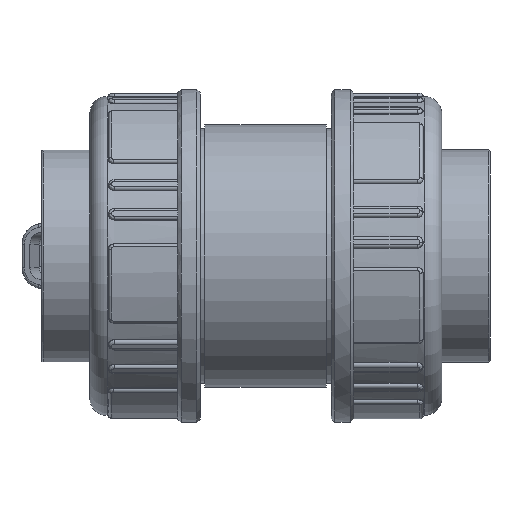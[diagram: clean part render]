
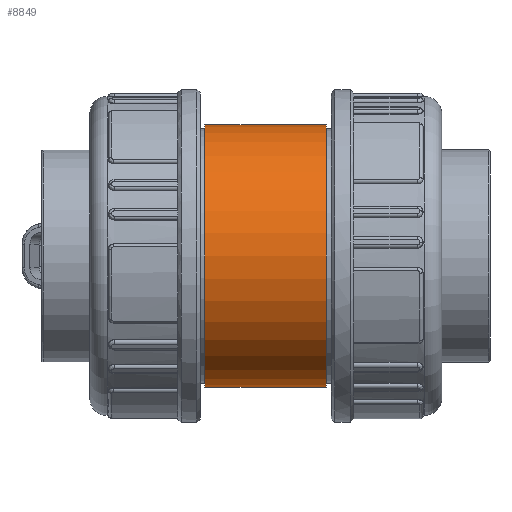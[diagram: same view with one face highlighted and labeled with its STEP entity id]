
A CAD part, left-side view. The second image highlights one B-rep face of the part: STEP entity #8849.
In plain terms, the highlighted cylindrical face has radius 38 mm (diameter 76 mm), a full revolution.
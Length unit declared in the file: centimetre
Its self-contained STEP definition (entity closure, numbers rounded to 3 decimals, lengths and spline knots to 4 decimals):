
#1475=B_SPLINE_CURVE_WITH_KNOTS('',3,(#65791,#65792,#65793,#65794,#65795,
#65796,#65797,#65798,#65799,#65800,#65801,#65802,#65803,#65804,#65805,#65806,
#65807,#65808,#65809,#65810,#65811,#65812,#65813,#65814,#65815,#65816,#65817,
#65818,#65819,#65820,#65821,#65822,#65823,#65824,#65825,#65826,#65827,#65828,
#65829,#65830,#65831,#65832,#65833,#65834,#65835,#65836,#65837,#65838,#65839,
#65840,#65841,#65842,#65843,#65844,#65845,#65846,#65847,#65848),
 .UNSPECIFIED.,.T.,.F.,(4,2,2,2,2,2,2,2,2,2,2,2,2,2,2,2,2,2,2,2,2,2,2,2,
2,2,2,2,4),(0.,0.3057,0.6115,1.2229,1.5283,
1.8336,2.1389,2.4443,2.7496,3.055,
3.3603,3.6657,4.2771,4.5829,4.8886,
5.1943,5.5,6.1115,6.4168,6.7222,
7.0275,7.3329,7.6382,7.9436,8.2489,
8.5542,9.1657,9.4714,9.7772),
 .UNSPECIFIED.);
#1631=CYLINDRICAL_SURFACE('',#9661,3.8);
#1692=FACE_BOUND('',#2773,.T.);
#1693=FACE_BOUND('',#2774,.T.);
#2212=FACE_OUTER_BOUND('',#2772,.T.);
#2772=EDGE_LOOP('',(#7632));
#2773=EDGE_LOOP('',(#7633));
#2774=EDGE_LOOP('',(#7634));
#3215=CIRCLE('',#9662,3.8);
#3216=CIRCLE('',#9663,3.8);
#3962=VERTEX_POINT('',#65790);
#3969=VERTEX_POINT('',#65909);
#3970=VERTEX_POINT('',#65911);
#5179=EDGE_CURVE('',#3962,#3962,#1475,.T.);
#5192=EDGE_CURVE('',#3969,#3969,#3215,.T.);
#5193=EDGE_CURVE('',#3970,#3970,#3216,.T.);
#7632=ORIENTED_EDGE('',*,*,#5192,.F.);
#7633=ORIENTED_EDGE('',*,*,#5179,.T.);
#7634=ORIENTED_EDGE('',*,*,#5193,.T.);
#8849=ADVANCED_FACE('',(#2212,#1692,#1693),#1631,.T.);
#9661=AXIS2_PLACEMENT_3D('',#65908,#11775,#11776);
#9662=AXIS2_PLACEMENT_3D('',#65910,#11777,#11778);
#9663=AXIS2_PLACEMENT_3D('',#65912,#11779,#11780);
#11775=DIRECTION('center_axis',(0.,-1.,0.));
#11776=DIRECTION('ref_axis',(-1.,0.,0.));
#11777=DIRECTION('center_axis',(0.,-1.,0.));
#11778=DIRECTION('ref_axis',(1.,0.,0.));
#11779=DIRECTION('center_axis',(0.,-1.,0.));
#11780=DIRECTION('ref_axis',(1.,0.,0.));
#65790=CARTESIAN_POINT('',(3.4467,0.,-1.6));
#65791=CARTESIAN_POINT('Ctrl Pts',(3.4467,0.,-1.6));
#65792=CARTESIAN_POINT('Ctrl Pts',(3.4467,-0.1019,
-1.6));
#65793=CARTESIAN_POINT('Ctrl Pts',(3.4514,-0.2068,
-1.5901));
#65794=CARTESIAN_POINT('Ctrl Pts',(3.47,-0.4146,
-1.549));
#65795=CARTESIAN_POINT('Ctrl Pts',(3.484,-0.5175,
-1.5177));
#65796=CARTESIAN_POINT('Ctrl Pts',(3.5359,-0.8124,-1.3947));
#65797=CARTESIAN_POINT('Ctrl Pts',(3.5838,-0.9906,
-1.2721));
#65798=CARTESIAN_POINT('Ctrl Pts',(3.6496,-1.2017,-1.0611));
#65799=CARTESIAN_POINT('Ctrl Pts',(3.6721,-1.2678,-0.9816));
#65800=CARTESIAN_POINT('Ctrl Pts',(3.7141,-1.3849,-0.8082));
#65801=CARTESIAN_POINT('Ctrl Pts',(3.7336,-1.4357,-0.7142));
#65802=CARTESIAN_POINT('Ctrl Pts',(3.7659,-1.5178,-0.5174));
#65803=CARTESIAN_POINT('Ctrl Pts',(3.7788,-1.549,-0.4145));
#65804=CARTESIAN_POINT('Ctrl Pts',(3.7958,-1.5901,-0.2066));
#65805=CARTESIAN_POINT('Ctrl Pts',(3.8,-1.6,-0.1018));
#65806=CARTESIAN_POINT('Ctrl Pts',(3.8,-1.6,0.1018));
#65807=CARTESIAN_POINT('Ctrl Pts',(3.7958,-1.5901,0.2066));
#65808=CARTESIAN_POINT('Ctrl Pts',(3.7788,-1.549,0.4145));
#65809=CARTESIAN_POINT('Ctrl Pts',(3.7659,-1.5178,0.5174));
#65810=CARTESIAN_POINT('Ctrl Pts',(3.7336,-1.4357,0.7142));
#65811=CARTESIAN_POINT('Ctrl Pts',(3.7141,-1.3849,0.8082));
#65812=CARTESIAN_POINT('Ctrl Pts',(3.6721,-1.2678,0.9816));
#65813=CARTESIAN_POINT('Ctrl Pts',(3.6496,-1.2017,1.0611));
#65814=CARTESIAN_POINT('Ctrl Pts',(3.5838,-0.9906,
1.2721));
#65815=CARTESIAN_POINT('Ctrl Pts',(3.5359,-0.8124,1.3947));
#65816=CARTESIAN_POINT('Ctrl Pts',(3.484,-0.5175,
1.5177));
#65817=CARTESIAN_POINT('Ctrl Pts',(3.47,-0.4146,
1.549));
#65818=CARTESIAN_POINT('Ctrl Pts',(3.4514,-0.2068,
1.5901));
#65819=CARTESIAN_POINT('Ctrl Pts',(3.4467,-0.1019,
1.6));
#65820=CARTESIAN_POINT('Ctrl Pts',(3.4467,0.1019,1.6));
#65821=CARTESIAN_POINT('Ctrl Pts',(3.4514,0.2068,1.5901));
#65822=CARTESIAN_POINT('Ctrl Pts',(3.47,0.4146,1.549));
#65823=CARTESIAN_POINT('Ctrl Pts',(3.484,0.5175,1.5177));
#65824=CARTESIAN_POINT('Ctrl Pts',(3.5359,0.8124,1.3947));
#65825=CARTESIAN_POINT('Ctrl Pts',(3.5838,0.9906,1.2721));
#65826=CARTESIAN_POINT('Ctrl Pts',(3.6496,1.2017,1.0611));
#65827=CARTESIAN_POINT('Ctrl Pts',(3.6721,1.2678,0.9816));
#65828=CARTESIAN_POINT('Ctrl Pts',(3.7141,1.3849,0.8082));
#65829=CARTESIAN_POINT('Ctrl Pts',(3.7336,1.4357,0.7142));
#65830=CARTESIAN_POINT('Ctrl Pts',(3.7659,1.5178,0.5174));
#65831=CARTESIAN_POINT('Ctrl Pts',(3.7788,1.549,0.4145));
#65832=CARTESIAN_POINT('Ctrl Pts',(3.7958,1.5901,0.2066));
#65833=CARTESIAN_POINT('Ctrl Pts',(3.8,1.6,0.1018));
#65834=CARTESIAN_POINT('Ctrl Pts',(3.8,1.6,-0.1018));
#65835=CARTESIAN_POINT('Ctrl Pts',(3.7958,1.5901,-0.2066));
#65836=CARTESIAN_POINT('Ctrl Pts',(3.7788,1.549,-0.4145));
#65837=CARTESIAN_POINT('Ctrl Pts',(3.7659,1.5178,-0.5174));
#65838=CARTESIAN_POINT('Ctrl Pts',(3.7336,1.4357,-0.7142));
#65839=CARTESIAN_POINT('Ctrl Pts',(3.7141,1.3849,-0.8082));
#65840=CARTESIAN_POINT('Ctrl Pts',(3.6721,1.2678,-0.9816));
#65841=CARTESIAN_POINT('Ctrl Pts',(3.6496,1.2017,-1.0611));
#65842=CARTESIAN_POINT('Ctrl Pts',(3.5838,0.9906,-1.2721));
#65843=CARTESIAN_POINT('Ctrl Pts',(3.5359,0.8124,-1.3947));
#65844=CARTESIAN_POINT('Ctrl Pts',(3.484,0.5175,-1.5177));
#65845=CARTESIAN_POINT('Ctrl Pts',(3.47,0.4146,-1.549));
#65846=CARTESIAN_POINT('Ctrl Pts',(3.4514,0.2068,-1.5901));
#65847=CARTESIAN_POINT('Ctrl Pts',(3.4467,0.1019,-1.6));
#65848=CARTESIAN_POINT('Ctrl Pts',(3.4467,0.,-1.6));
#65908=CARTESIAN_POINT('Origin',(0.,0.005,
0.));
#65909=CARTESIAN_POINT('',(-3.8,-1.755,0.));
#65910=CARTESIAN_POINT('Origin',(0.,-1.755,0.));
#65911=CARTESIAN_POINT('',(-3.8,1.765,0.));
#65912=CARTESIAN_POINT('Origin',(0.,1.765,0.));
